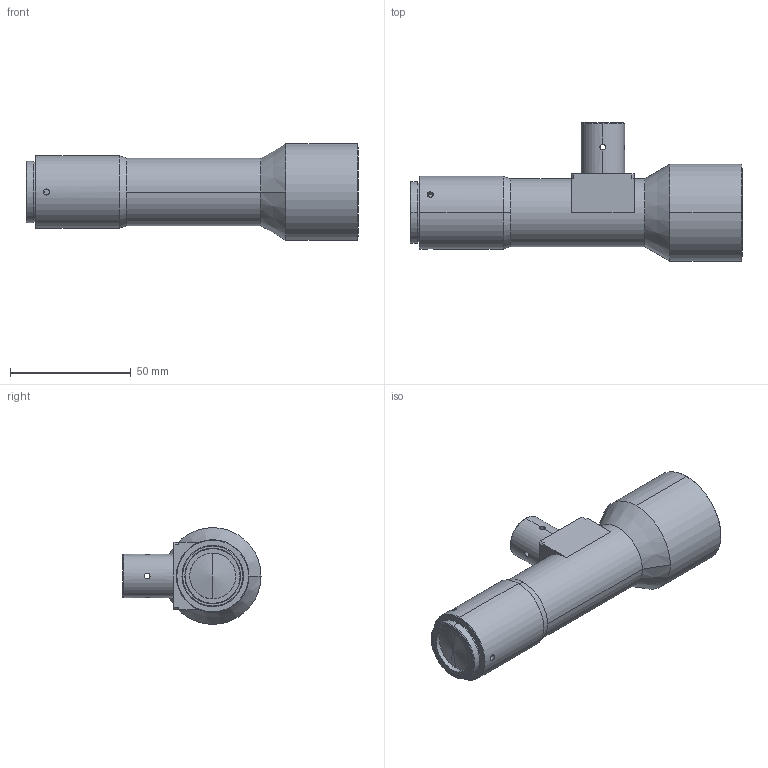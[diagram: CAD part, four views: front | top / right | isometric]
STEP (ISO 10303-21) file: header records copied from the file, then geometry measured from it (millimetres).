
FILE_DESCRIPTION (( 'STEP AP203' ), '1' );
FILE_NAME ('WWK10-110C-111.STEP', '2017-06-13T06:02:15', ( 'frank' ), ( '' ), 'SwSTEP 2.0', 'SolidWorks 2012', '' );
FILE_SCHEMA (( 'CONFIG_CONTROL_DESIGN' ));
Length unit declared in the file: millimetre
Products named in the file (1): WWK10-110C-111
Bounding box: 137.2 x 57.1 x 40 mm (x, y, z)
Volume: 115440.8 mm3; surface area: 18989.4 mm2
Topology: 1 solids, 1 shells, 129 faces, 317 edges, 195 vertices
Faces by surface type: cylinder 60, cone 39, plane 30
Entity records: 4322 total; most frequent: CARTESIAN_POINT 1220, DIRECTION 649, ORIENTED_EDGE 610, EDGE_CURVE 305, AXIS2_PLACEMENT_3D 258, VERTEX_POINT 195, EDGE_LOOP 154, LINE 133
